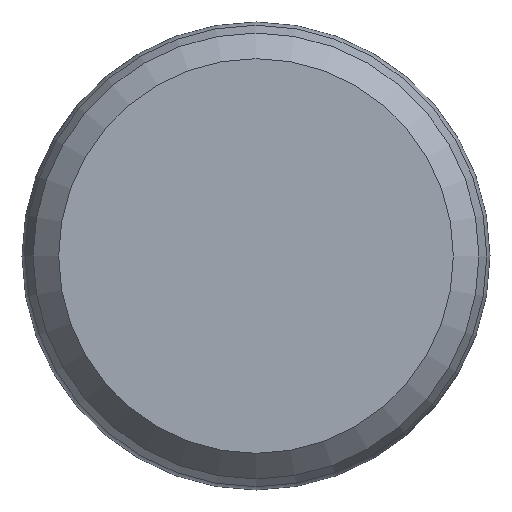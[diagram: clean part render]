
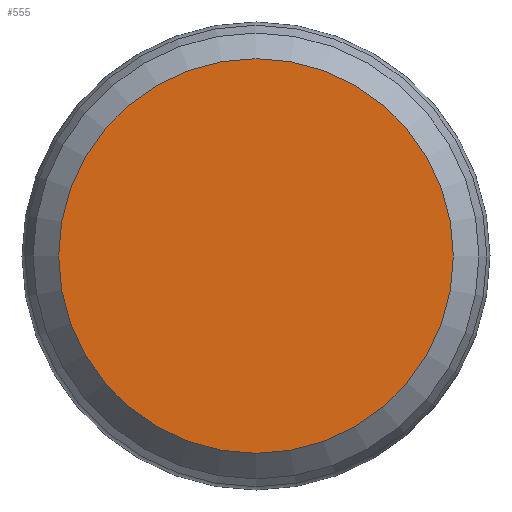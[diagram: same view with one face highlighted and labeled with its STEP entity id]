
A CAD part, left-side view. The second image highlights one B-rep face of the part: STEP entity #555.
In plain terms, the highlighted planar face has unit normal (-1, 0, 0).
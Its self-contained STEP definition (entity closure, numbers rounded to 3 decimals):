
#15=PLANE('',#665);
#55=FACE_OUTER_BOUND('',#81,.T.);
#81=EDGE_LOOP('',(#498,#499));
#181=CIRCLE('',#663,2.315);
#182=CIRCLE('',#664,2.315);
#248=VERTEX_POINT('',#1049);
#249=VERTEX_POINT('',#1050);
#333=EDGE_CURVE('',#248,#249,#181,.T.);
#334=EDGE_CURVE('',#249,#248,#182,.T.);
#498=ORIENTED_EDGE('',*,*,#333,.T.);
#499=ORIENTED_EDGE('',*,*,#334,.T.);
#555=ADVANCED_FACE('',(#55),#15,.T.);
#663=AXIS2_PLACEMENT_3D('',#1051,#859,#860);
#664=AXIS2_PLACEMENT_3D('',#1052,#861,#862);
#665=AXIS2_PLACEMENT_3D('',#1054,#864,#865);
#859=DIRECTION('center_axis',(-1.,0.,0.));
#860=DIRECTION('ref_axis',(0.,1.,0.));
#861=DIRECTION('center_axis',(-1.,0.,0.));
#862=DIRECTION('ref_axis',(0.,1.,0.));
#864=DIRECTION('center_axis',(-1.,0.,0.));
#865=DIRECTION('ref_axis',(0.,0.,1.));
#1049=CARTESIAN_POINT('',(0.,2.315,0.));
#1050=CARTESIAN_POINT('',(0.,-2.315,0.));
#1051=CARTESIAN_POINT('Origin',(0.,0.,0.));
#1052=CARTESIAN_POINT('Origin',(0.,0.,0.));
#1054=CARTESIAN_POINT('Origin',(0.,1.158,0.));
